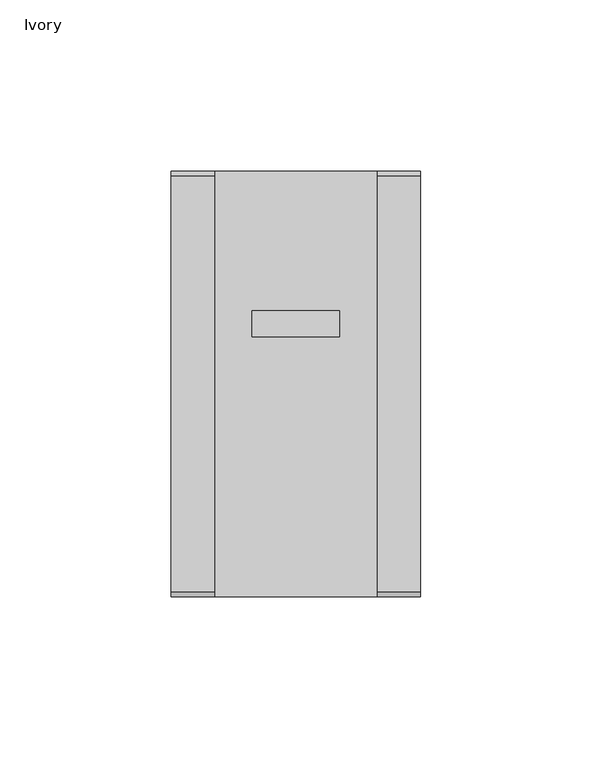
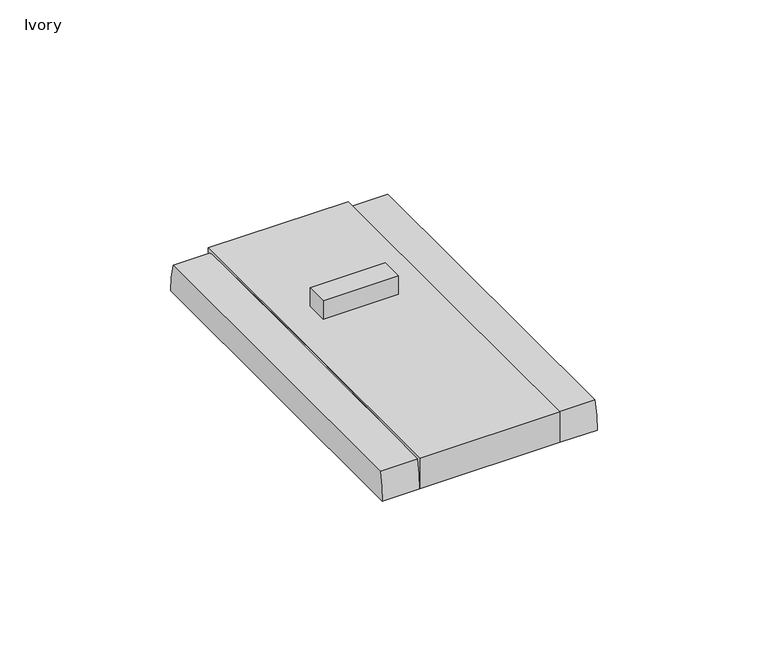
"""IFC4 building model written with IfcOpenShell, lengths in millimetres: proxy geometry, Switch-Pass_And_Seymour-Dimmer : Ivory."""

from ifc_helpers import new_model, si_unit, frame, origin, place, context, project, spatial, polyline, circle_curve, outline, extrude, source, transform, mapped, element, save
from ifc_brep_helpers import plane_surface, cylinder_surface, advanced_brep


def ivory_70dfe3d4(model_context):
    return source(origin(), model_context, "Body", "SolidModel", [
        extrude(outline(polyline([(12.7, 21.336), (12.7, 13.716), (-12.7, 13.716), (-12.7, 21.336), (12.7, 21.336)])), frame((0.0, 0.0, 10.922), z_axis=(0.0, 0.0, 1.0), x_axis=(1.0, 0.0, 0.0)), (0.0, 0.0, 1.0), 6.604),
        advanced_brep(
        [(23.622, 61.976, 0.0), (23.622, 61.976, 10.922), (23.622, 0.0, 10.922), (23.622, 60.6541131, 9.9488894), (23.622, -61.976, 10.922), (23.622, -61.976, 0.0), (23.622, -60.6541131, 9.9488894), (-23.622, -61.976, 0.0), (-23.622, -61.976, 10.922), (-23.622, 0.0, 10.922), (-23.622, -60.6541131, 9.9488894), (-23.622, 61.976, 10.922), (-23.622, 61.976, 0.0), (-23.622, 60.6541131, 9.9488894), (-36.322, -61.976, 0.0), (-36.322, 61.976, 0.0), (36.322, 61.976, 0.0), (36.322, -61.976, 0.0), (36.322, 60.6541131, 9.9488894), (36.322, -60.6541131, 9.9488894), (-36.322, 60.6541131, 9.9488894), (-36.322, -60.6541131, 9.9488894)],
        [
            (0, 1),
            (1, 2),
            (2, 3, circle_curve(frame((23.622, 0.0, -1879.854), z_axis=(-1.0, 0.0, 0.0), x_axis=(0.0, 1.0, 0.0)), 1890.776)),
            (3, 0, circle_curve(frame((23.622, 23.876, 0.0), z_axis=(-1.0, 0.0, 0.0), x_axis=(0.0, 1.0, 0.0)), 38.1)),
            (4, 5),
            (5, 6, circle_curve(frame((23.622, -23.876, 0.0), z_axis=(-1.0, 0.0, 0.0), x_axis=(0.0, 1.0, 0.0)), 38.1)),
            (6, 2, circle_curve(frame((23.622, 0.0, -1879.854), z_axis=(-1.0, 0.0, 0.0), x_axis=(0.0, 1.0, 0.0)), 1890.776)),
            (2, 4),
            (7, 8),
            (8, 9),
            (9, 10, circle_curve(frame((-23.622, 0.0, -1879.854), z_axis=(1.0, 0.0, 0.0), x_axis=(0.0, 1.0, 0.0)), 1890.776)),
            (10, 7, circle_curve(frame((-23.622, -23.876, 0.0), z_axis=(1.0, 0.0, 0.0), x_axis=(0.0, 1.0, 0.0)), 38.1)),
            (11, 12),
            (12, 13, circle_curve(frame((-23.622, 23.876, 0.0), z_axis=(1.0, 0.0, 0.0), x_axis=(0.0, 1.0, 0.0)), 38.1)),
            (13, 9, circle_curve(frame((-23.622, 0.0, -1879.854), z_axis=(1.0, 0.0, 0.0), x_axis=(0.0, 1.0, 0.0)), 1890.776)),
            (9, 11),
            (5, 7),
            (7, 14),
            (14, 15),
            (15, 12),
            (12, 0),
            (0, 16),
            (16, 17),
            (17, 5),
            (1, 11),
            (8, 4),
            (18, 19, circle_curve(frame((36.322, 0.0, -1879.854), z_axis=(1.0, 0.0, 0.0), x_axis=(0.0, 1.0, 0.0)), 1890.776)),
            (19, 17, circle_curve(frame((36.322, -23.876, 0.0), z_axis=(1.0, 0.0, 0.0), x_axis=(0.0, 1.0, 0.0)), 38.1)),
            (16, 18, circle_curve(frame((36.322, 23.876, 0.0), z_axis=(1.0, 0.0, 0.0), x_axis=(0.0, 1.0, 0.0)), 38.1)),
            (20, 15, circle_curve(frame((-36.322, 23.876, 0.0), z_axis=(-1.0, 0.0, 0.0), x_axis=(0.0, 1.0, 0.0)), 38.1)),
            (14, 21, circle_curve(frame((-36.322, -23.876, 0.0), z_axis=(-1.0, 0.0, 0.0), x_axis=(0.0, 1.0, 0.0)), 38.1)),
            (21, 20, circle_curve(frame((-36.322, 0.0, -1879.854), z_axis=(-1.0, 0.0, 0.0), x_axis=(0.0, 1.0, 0.0)), 1890.776)),
            (18, 3),
            (6, 19),
            (21, 10),
            (13, 20),
        ],
        [
            plane_surface(frame((23.622, 61.976, 10.922), z_axis=(1.0, 0.0, 0.0), x_axis=(0.0, 0.0, 1.0))),
            plane_surface(frame((-23.622, 61.976, 10.922), z_axis=(-1.0, 0.0, 0.0), x_axis=(0.0, 0.0, -1.0))),
            plane_surface(frame((23.622, -61.976, 0.0), z_axis=(0.0, 0.0, -1.0), x_axis=(-1.0, 0.0, 0.0))),
            plane_surface(frame((23.622, 61.976, 10.922), z_axis=(0.0, 0.0, 1.0), x_axis=(-1.0, 0.0, 0.0))),
            plane_surface(frame((23.622, 61.976, 0.0), z_axis=(0.0, 1.0, 0.0), x_axis=(-1.0, 0.0, 0.0))),
            plane_surface(frame((23.622, -61.976, 10.922), z_axis=(0.0, -1.0, 0.0), x_axis=(-1.0, 0.0, 0.0))),
            plane_surface(frame((36.322, 1890.776, -1879.854), z_axis=(1.0, 0.0, 0.0), x_axis=(0.0, 0.0, 1.0))),
            plane_surface(frame((-36.322, 1890.776, -1879.854), z_axis=(-1.0, 0.0, 0.0), x_axis=(0.0, 0.0, -1.0))),
            cylinder_surface(frame((-36.322, 0.0, -1879.854), z_axis=(1.0, 0.0, 0.0), x_axis=(0.0, 1.0, 0.0)), 1890.776),
            cylinder_surface(frame((-36.322, -23.876, 0.0), z_axis=(1.0, 0.0, 0.0), x_axis=(0.0, 1.0, 0.0)), 38.1),
            cylinder_surface(frame((-36.322, 23.876, 0.0), z_axis=(1.0, 0.0, 0.0), x_axis=(0.0, 1.0, 0.0)), 38.1),
        ],
        [
            (0, [[1, 2, 3, 4]]),
            (0, [[5, 6, 7, 8]]),
            (1, [[9, 10, 11, 12]]),
            (1, [[13, 14, 15, 16]]),
            (2, [[17, 18, 19, 20, 21, 22, 23, 24]]),
            (3, [[25, -16, -10, 26, -8, -2]]),
            (4, [[-1, -21, -13, -25]]),
            (5, [[-5, -26, -9, -17]]),
            (6, [[27, 28, -23, 29]]),
            (7, [[30, -19, 31, 32]]),
            (8, [[-27, 33, -3, -7, 34]]),
            (8, [[-32, 35, -11, -15, 36]]),
            (9, [[-28, -34, -6, -24]]),
            (9, [[-31, -18, -12, -35]]),
            (10, [[-29, -22, -4, -33]]),
            (10, [[-30, -36, -14, -20]]),
        ],
    ),
    ])


if __name__ == "__main__":
    model = new_model("IFC4")
    model_context = context("Model", 3, world=origin())
    ifc_project = project(units=[si_unit("LENGTHUNIT", "METRE", prefix="MILLI")], contexts=[model_context])
    site = spatial("IfcSite", under=ifc_project)
    building = spatial("IfcBuilding", under=site)
    placement = place(None, origin())
    ivory_shape = ivory_70dfe3d4(model_context)
    element("IfcBuildingElementProxy", 1, Name="Switch-Pass_And_Seymour-Dimmer : Ivory", ObjectType="Switch-Pass_And_Seymour-Dimmer : Ivory", at=placement, inside=building, context=model_context, shape_type="MappedRepresentation", body=[
        mapped(ivory_shape, transform((0.0, 0.0, 0.0), x_axis=(1.0, 0.0, 0.0), y_axis=(0.0, 1.0, 0.0), z_axis=(0.0, 0.0, 1.0))),
    ])
    save(model, "model.ifc")
